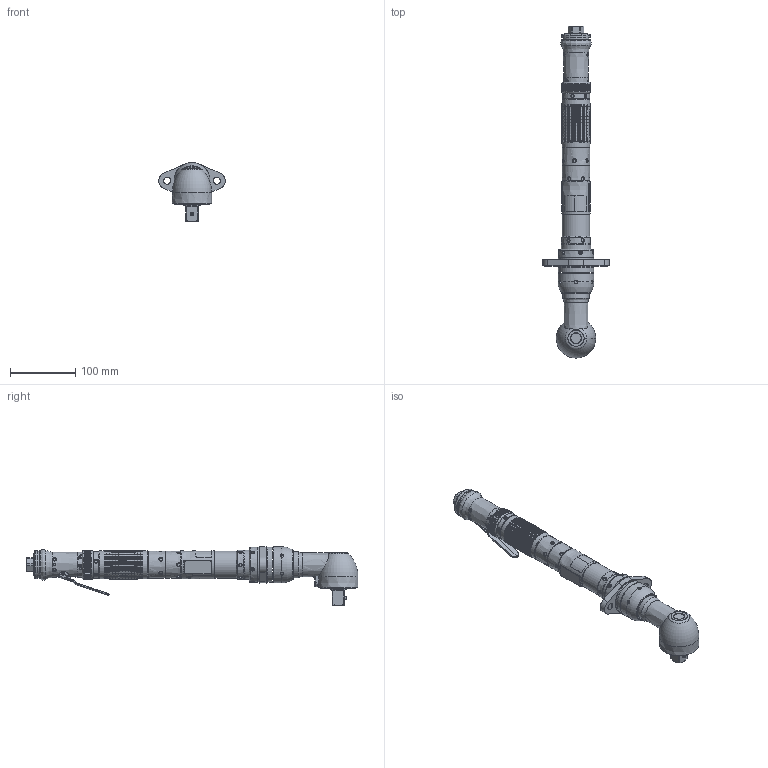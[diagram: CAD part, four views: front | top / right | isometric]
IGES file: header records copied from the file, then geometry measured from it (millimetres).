
Global section: file name: D:\share\siji\qa8\16595050\16595050.igs; native system: Unigraphics Version X V2.0; preprocessor: Unigraphics NX IGES V2.0; date: 20070518.111731; units: inch
Bounding box: 101.6 x 508.31 x 90.44 mm (x, y, z)
Surface area: 107296.3 mm2 (no closed solid volume)
Topology: 0 solids, 0 shells, 606 faces, 13922 edges, 13737 vertices
Faces by surface type: revolution 359, extrusion 215, bspline 30, offset 2
